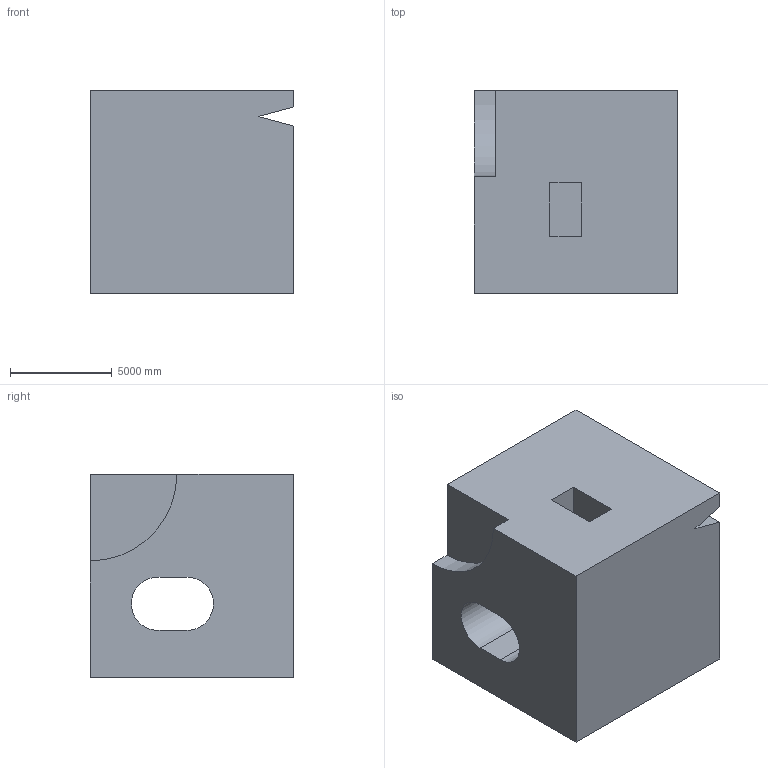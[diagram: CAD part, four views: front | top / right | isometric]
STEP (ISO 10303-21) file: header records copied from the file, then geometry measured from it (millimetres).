
FILE_DESCRIPTION (( 'STEP AP203' ), '1' );
FILE_NAME ('274.STEP', '2022-09-07T12:33:41', ( 'user' ), ( '' ), 'SwSTEP 2.0', 'SolidWorks 2021', '' );
FILE_SCHEMA (( 'CONFIG_CONTROL_DESIGN' ));
Length unit declared in the file: centimetre
Products named in the file (1): 274
Bounding box: 10000 x 10000 x 10000 mm (x, y, z)
Volume: 876390930842.8 mm3; surface area: 735267785.4 mm2
Topology: 1 solids, 1 shells, 20 faces, 51 edges, 34 vertices
Faces by surface type: plane 17, cylinder 3
Entity records: 682 total; most frequent: CARTESIAN_POINT 106, ORIENTED_EDGE 102, DIRECTION 99, EDGE_CURVE 51, LINE 45, VECTOR 45, VERTEX_POINT 34, AXIS2_PLACEMENT_3D 27
